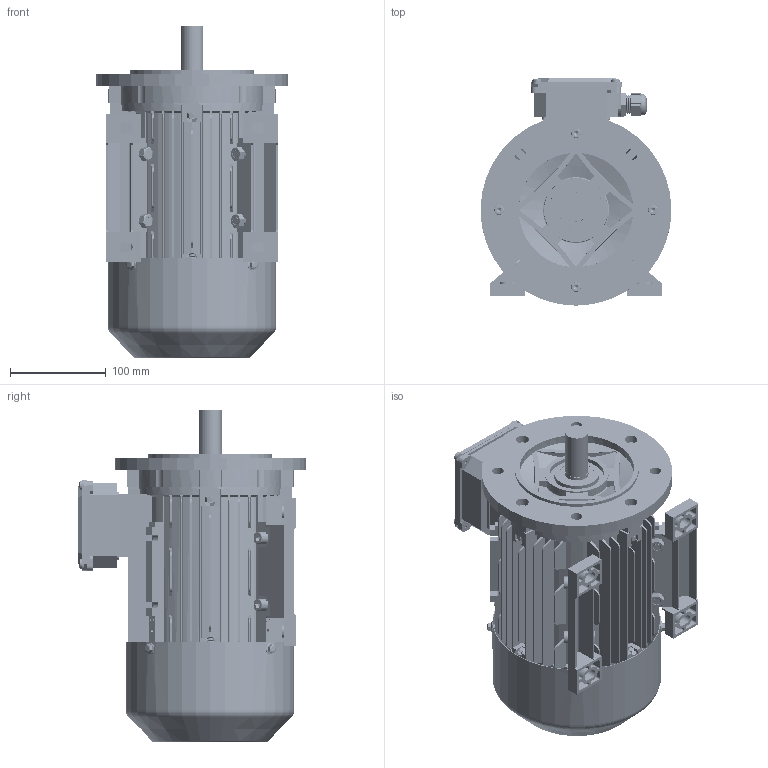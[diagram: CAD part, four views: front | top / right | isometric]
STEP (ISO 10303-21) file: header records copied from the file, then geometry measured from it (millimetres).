
FILE_DESCRIPTION (( 'STEP AP203' ), '1' );
FILE_NAME ('ME3-90LB35 3D.STEP', '2024-06-06T08:53:20', ( 'User' ), ( 'China' ), 'SwSTEP 2.0', 'SolidWorks 2018', '' );
FILE_SCHEMA (( 'CONFIG_CONTROL_DESIGN' ));
Length unit declared in the file: millimetre
Products named in the file (23): hexagon socket head cap screws gb_GB_FASTENER_SCREWS_HSHCS M8X25-S; 黑芛20X1.5; 8.034.09005ME2-90L儂褲; wave single coil spring lock washers gb_GB_FASTENER_WASHER_WSLW 8; hexagon socket head cap screws gb_GB_FASTENER_SCREWS_HSHCS M6X30-S; 8.014.09012加长后盖（铁）; hex nuts, style 2-grades ab gb_GB_HEXAGON_TYPE13 M8 Normal Style-C; hex nuts, style 2-grades ab gb_GB_HEXAGON_TYPE13 M6 Normal Style-C; deep groove ball bearings gb_Rolling bearings 6205 GB 276-94; 蚐猾37X25X7; 8.306.09004ME2-90瑞欶; 8.200.09005ME2L 蛌粣; 8.014.09013 ME2 90B5; hex flange bolts-heavy grade b gb_GB_FASTENER_BOLT_HFBB M5X10-C; 8.046.09005ME2 90L 菁褐; hexagon socket head cap screws gb_GB_FASTENER_SCREWS_HSHCS M6X35-S; wave single coil spring lock washers gb_GB_FASTENER_WASHER_WSLW 6; MS63-71諉盄碟菁釱; ME3-90LB35  3D; cross recessed pan head screws gb_GB_CROSS_SCREWS_TYPE1 M5X8-8  H type-S; 蹟杶郋M20X1.5; MS63-71諉盄碟裔; 蹟簸M20X1.5
Assembly tree (58 placements, depth 2):
  ME3-90LB35  3D
    8.034.09005ME2-90L儂褲
    8.014.09012加长后盖（铁）
    deep groove ball bearings gb_Rolling bearings 6205 GB 276-94  x2
    8.200.09005ME2L 蛌粣
    8.046.09005ME2 90L 菁褐  x2
    MS63-71諉盄碟菁釱
    蹟杶郋M20X1.5
    蹟簸M20X1.5
    黑芛20X1.5
    hexagon socket head cap screws gb_GB_FASTENER_SCREWS_HSHCS M6X30-S  x4
    hex nuts, style 2-grades ab gb_GB_HEXAGON_TYPE13 M6 Normal Style-C  x7
    8.306.09004ME2-90瑞欶
    hex flange bolts-heavy grade b gb_GB_FASTENER_BOLT_HFBB M5X10-C  x4
    wave single coil spring lock washers gb_GB_FASTENER_WASHER_WSLW 6  x4
    cross recessed pan head screws gb_GB_CROSS_SCREWS_TYPE1 M5X8-8  H type-S  x8
    MS63-71諉盄碟裔
    hexagon socket head cap screws gb_GB_FASTENER_SCREWS_HSHCS M8X25-S  x4
    wave single coil spring lock washers gb_GB_FASTENER_WASHER_WSLW 8  x4
    hex nuts, style 2-grades ab gb_GB_HEXAGON_TYPE13 M8 Normal Style-C  x4
    蚐猾37X25X7
    8.014.09013 ME2 90B5
    hexagon socket head cap screws gb_GB_FASTENER_SCREWS_HSHCS M6X35-S  x4
Bounding box: 200 x 238 x 347.62 mm (x, y, z)
Volume: 1531935.7 mm3; surface area: 928400.5 mm2
Topology: 67 solids, 67 shells, 7684 faces, 18853 edges, 11244 vertices
Faces by surface type: plane 2616, cone 2613, cylinder 2038, bspline 170, torus 167, sphere 80
Entity records: 147142 total; most frequent: CARTESIAN_POINT 45614, ORIENTED_EDGE 21482, DIRECTION 19123, EDGE_CURVE 10741, VERTEX_POINT 6820, AXIS2_PLACEMENT_3D 6430, LINE 6263, VECTOR 6263
